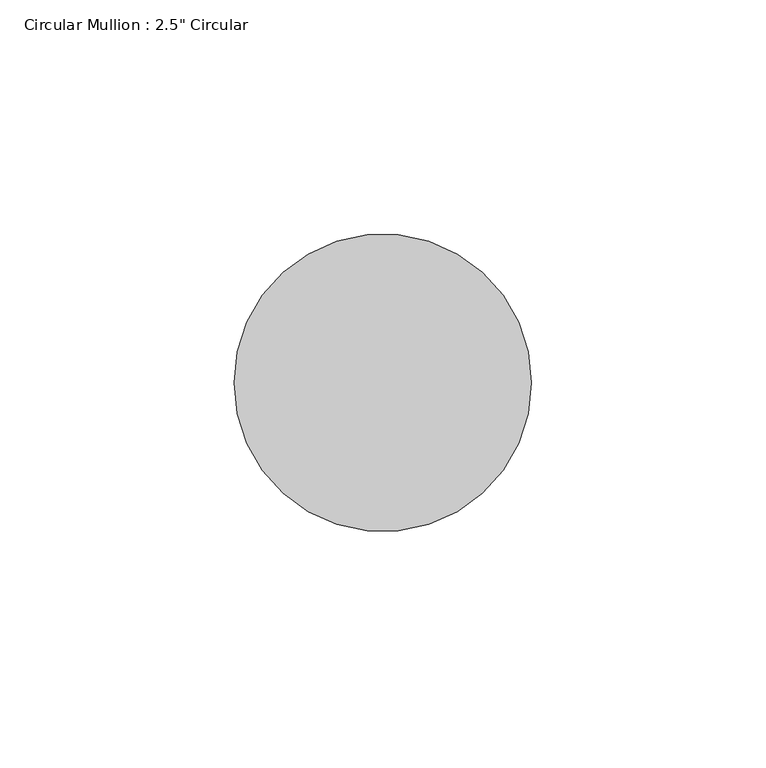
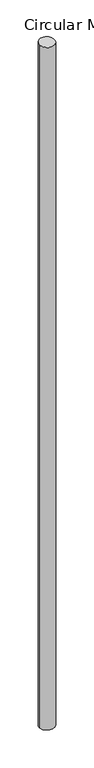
"""IFC4 building model written with IfcOpenShell, lengths in millimetres: member geometry."""

from ifc_helpers import new_model, si_unit, frame, origin, origin_with_axes, place, context, project, spatial, ellipse_curve, source, transform, mapped, element, save
from ifc_brep_helpers import plane_surface, cylinder_surface, advanced_brep


def member_510b38fa(model_context):
    return source(origin(), model_context, "Body", "AdvancedBrep", [
        advanced_brep(
        [(-31.75, 0.0, -0.1747497), (31.75, 0.0, 0.1747497), (31.75, 0.0, -3032.0828717), (-31.75, 0.0, -3031.7253898)],
        [
            (0, 1, ellipse_curve(frame((0.0, 0.0, 0.0), z_axis=(0.005492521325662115, 0.06411526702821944, -0.997927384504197), x_axis=(0.08517682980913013, 0.9942856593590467, 0.06435009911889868)), 31.8159422, 31.75)),
            (1, 2),
            (2, 3, ellipse_curve(frame((0.0, 0.0, -3031.9041307), z_axis=(0.005619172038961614, 0.060683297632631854, 0.9981412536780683), x_axis=(-0.09203249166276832, -0.993889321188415, 0.06094290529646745)), 31.8091251, 31.75)),
            (3, 0),
            (1, 0, ellipse_curve(frame((0.0, 0.0, 0.0), z_axis=(0.005492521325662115, 0.06411526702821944, -0.997927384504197), x_axis=(0.08517682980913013, 0.9942856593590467, 0.06435009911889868)), 31.8159422, 31.75)),
            (3, 2, ellipse_curve(frame((0.0, 0.0, -3031.9041307), z_axis=(0.005619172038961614, 0.060683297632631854, 0.9981412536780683), x_axis=(-0.09203249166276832, -0.993889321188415, 0.06094290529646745)), 31.8091251, 31.75)),
        ],
        [
            cylinder_surface(origin_with_axes(), 31.75),
            plane_surface(frame((303.6876968, -26.0158185, 0.0), z_axis=(-0.005492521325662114, -0.06411526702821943, 0.9979273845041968), x_axis=(-0.08517682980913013, -0.9942856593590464, -0.06435009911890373))),
            plane_surface(frame((303.5015976, -28.1037412, -3031.9041307), z_axis=(-0.005619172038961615, -0.06068329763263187, -0.9981412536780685), x_axis=(-0.09203249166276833, -0.9938893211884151, 0.060942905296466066))),
        ],
        [
            (0, [[1, 2, 3, 4]]),
            (0, [[5, -4, 6, -2]]),
            (1, [[-1, -5]]),
            (2, [[-6, -3]]),
        ],
    ),
    ])


if __name__ == "__main__":
    model = new_model("IFC4")
    model_context = context("Model", 3, world=origin())
    ifc_project = project(units=[si_unit("LENGTHUNIT", "METRE", prefix="MILLI")], contexts=[model_context])
    site = spatial("IfcSite", under=ifc_project)
    building = spatial("IfcBuilding", under=site)
    placement = place(None, origin())
    member_shape = member_510b38fa(model_context)
    element("IfcMember", 1, ObjectType="Circular Mullion : 2.5\" Circular", at=placement, inside=building, context=model_context, shape_type="MappedRepresentation", body=[
        mapped(member_shape, transform((0.0, 0.0, 0.0), x_axis=(1.0, 0.0, 0.0), y_axis=(0.0, 1.0, 0.0), z_axis=(0.0, 0.0, 1.0))),
    ])
    save(model, "model.ifc")
